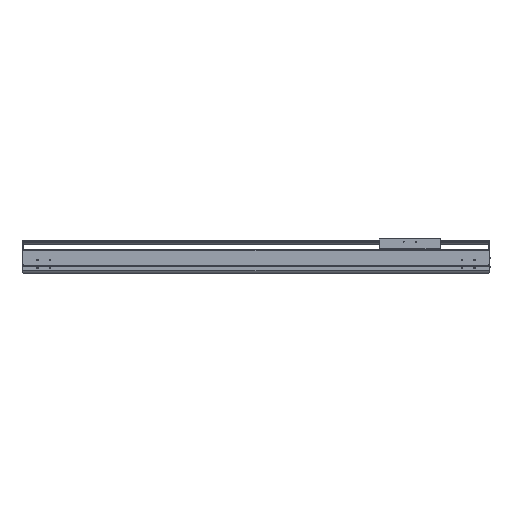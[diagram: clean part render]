
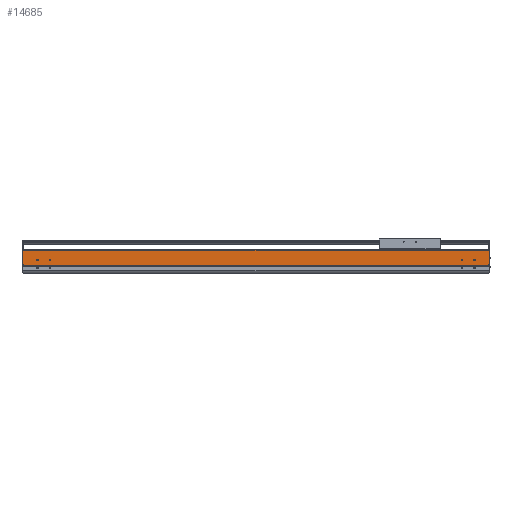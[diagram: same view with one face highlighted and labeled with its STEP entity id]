
A CAD part, top view. The second image highlights one B-rep face of the part: STEP entity #14685.
In plain terms, the highlighted planar face has unit normal (0, 0, 1).
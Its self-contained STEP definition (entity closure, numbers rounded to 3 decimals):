
#538=DIRECTION('',(0.,-1.,0.));
#539=VECTOR('',#538,2.55);
#540=CARTESIAN_POINT('',(0.,34.65,107.));
#541=LINE('',#540,#539);
#2187=DIRECTION('',(1.,0.,0.));
#2188=VECTOR('',#2187,2.);
#2189=CARTESIAN_POINT('',(0.,34.65,107.));
#2190=LINE('',#2189,#2188);
#2195=CARTESIAN_POINT('',(-59.5,54.,107.));
#2196=DIRECTION('',(0.,0.,-1.));
#2197=DIRECTION('',(1.,0.,0.));
#2198=AXIS2_PLACEMENT_3D('',#2195,#2196,#2197);
#2200=CARTESIAN_POINT('',(-59.5,54.,107.));
#2201=DIRECTION('',(0.,0.,-1.));
#2202=DIRECTION('',(-1.,0.,0.));
#2203=AXIS2_PLACEMENT_3D('',#2200,#2201,#2202);
#2205=CARTESIAN_POINT('',(-109.5,54.,107.));
#2206=DIRECTION('',(0.,0.,-1.));
#2207=DIRECTION('',(1.,0.,0.));
#2208=AXIS2_PLACEMENT_3D('',#2205,#2206,#2207);
#2210=CARTESIAN_POINT('',(-109.5,54.,107.));
#2211=DIRECTION('',(0.,0.,-1.));
#2212=DIRECTION('',(-1.,0.,0.));
#2213=AXIS2_PLACEMENT_3D('',#2210,#2211,#2212);
#2215=CARTESIAN_POINT('',(-1859.5,54.,107.));
#2216=DIRECTION('',(0.,0.,-1.));
#2217=DIRECTION('',(1.,0.,0.));
#2218=AXIS2_PLACEMENT_3D('',#2215,#2216,#2217);
#2220=CARTESIAN_POINT('',(-1859.5,54.,107.));
#2221=DIRECTION('',(0.,0.,-1.));
#2222=DIRECTION('',(-1.,0.,0.));
#2223=AXIS2_PLACEMENT_3D('',#2220,#2221,#2222);
#2225=CARTESIAN_POINT('',(-1809.5,54.,107.));
#2226=DIRECTION('',(0.,0.,-1.));
#2227=DIRECTION('',(1.,0.,0.));
#2228=AXIS2_PLACEMENT_3D('',#2225,#2226,#2227);
#2230=CARTESIAN_POINT('',(-1809.5,54.,107.));
#2231=DIRECTION('',(0.,0.,-1.));
#2232=DIRECTION('',(-1.,0.,0.));
#2233=AXIS2_PLACEMENT_3D('',#2230,#2231,#2232);
#2235=DIRECTION('',(0.,-1.,0.));
#2236=VECTOR('',#2235,2.55);
#2237=CARTESIAN_POINT('',(-1919.,34.65,107.));
#2238=LINE('',#2237,#2236);
#2239=DIRECTION('',(0.,-1.,0.));
#2240=VECTOR('',#2239,58.85);
#2241=CARTESIAN_POINT('',(-1921.,93.5,107.));
#2242=LINE('',#2241,#2240);
#2243=DIRECTION('',(0.,1.,0.));
#2244=VECTOR('',#2243,58.85);
#2245=CARTESIAN_POINT('',(2.,34.65,107.));
#2246=LINE('',#2245,#2244);
#2247=DIRECTION('',(1.,0.,0.));
#2248=VECTOR('',#2247,1919.);
#2249=CARTESIAN_POINT('',(-1919.,32.1,107.));
#2250=LINE('',#2249,#2248);
#2359=DIRECTION('',(1.,0.,0.));
#2360=VECTOR('',#2359,2.);
#2361=CARTESIAN_POINT('',(-1921.,34.65,107.));
#2362=LINE('',#2361,#2360);
#2371=DIRECTION('',(-1.,0.,0.));
#2372=VECTOR('',#2371,1923.);
#2373=CARTESIAN_POINT('',(2.,93.5,107.));
#2374=LINE('',#2373,#2372);
#9521=CARTESIAN_POINT('',(-1921.,34.65,107.));
#9522=VERTEX_POINT('',#9521);
#9523=CARTESIAN_POINT('',(-1921.,93.5,107.));
#9524=VERTEX_POINT('',#9523);
#9753=CARTESIAN_POINT('',(-1919.,32.1,107.));
#9754=VERTEX_POINT('',#9753);
#10093=CARTESIAN_POINT('',(0.,32.1,107.));
#10094=VERTEX_POINT('',#10093);
#10095=CARTESIAN_POINT('',(-57.,54.,107.));
#10096=CARTESIAN_POINT('',(-62.,54.,107.));
#10097=VERTEX_POINT('',#10095);
#10098=VERTEX_POINT('',#10096);
#10099=CARTESIAN_POINT('',(-107.,54.,107.));
#10100=CARTESIAN_POINT('',(-112.,54.,107.));
#10101=VERTEX_POINT('',#10099);
#10102=VERTEX_POINT('',#10100);
#10103=CARTESIAN_POINT('',(-1857.,54.,107.));
#10104=CARTESIAN_POINT('',(-1862.,54.,107.));
#10105=VERTEX_POINT('',#10103);
#10106=VERTEX_POINT('',#10104);
#10107=CARTESIAN_POINT('',(-1807.,54.,107.));
#10108=CARTESIAN_POINT('',(-1812.,54.,107.));
#10109=VERTEX_POINT('',#10107);
#10110=VERTEX_POINT('',#10108);
#10810=CARTESIAN_POINT('',(2.,34.65,107.));
#10811=VERTEX_POINT('',#10810);
#10812=CARTESIAN_POINT('',(2.,93.5,107.));
#10813=VERTEX_POINT('',#10812);
#11264=CARTESIAN_POINT('',(0.,34.65,107.));
#11265=VERTEX_POINT('',#11264);
#11344=CARTESIAN_POINT('',(-1919.,34.65,107.));
#11345=VERTEX_POINT('',#11344);
#14643=CARTESIAN_POINT('',(-959.5,62.8,107.));
#14644=DIRECTION('',(0.,0.,1.));
#14645=DIRECTION('',(0.,-1.,0.));
#14646=AXIS2_PLACEMENT_3D('',#14643,#14644,#14645);
#14647=PLANE('',#14646);
#14648=ORIENTED_EDGE('',*,*,#12144,.F.);
#14650=ORIENTED_EDGE('',*,*,#14649,.F.);
#14651=ORIENTED_EDGE('',*,*,#13241,.F.);
#14653=ORIENTED_EDGE('',*,*,#14652,.F.);
#14654=ORIENTED_EDGE('',*,*,#14441,.F.);
#14655=ORIENTED_EDGE('',*,*,#14636,.F.);
#14656=ORIENTED_EDGE('',*,*,#12759,.T.);
#14658=ORIENTED_EDGE('',*,*,#14657,.F.);
#14659=EDGE_LOOP('',(#14648,#14650,#14651,#14653,#14654,#14655,#14656,#14658));
#14660=FACE_OUTER_BOUND('',#14659,.F.);
#14662=ORIENTED_EDGE('',*,*,#14661,.F.);
#14664=ORIENTED_EDGE('',*,*,#14663,.F.);
#14665=EDGE_LOOP('',(#14662,#14664));
#14666=FACE_BOUND('',#14665,.F.);
#14668=ORIENTED_EDGE('',*,*,#14667,.F.);
#14670=ORIENTED_EDGE('',*,*,#14669,.F.);
#14671=EDGE_LOOP('',(#14668,#14670));
#14672=FACE_BOUND('',#14671,.F.);
#14674=ORIENTED_EDGE('',*,*,#14673,.F.);
#14676=ORIENTED_EDGE('',*,*,#14675,.F.);
#14677=EDGE_LOOP('',(#14674,#14676));
#14678=FACE_BOUND('',#14677,.F.);
#14680=ORIENTED_EDGE('',*,*,#14679,.F.);
#14682=ORIENTED_EDGE('',*,*,#14681,.F.);
#14683=EDGE_LOOP('',(#14680,#14682));
#14684=FACE_BOUND('',#14683,.F.);
#14685=ADVANCED_FACE('',(#14660,#14666,#14672,#14678,#14684),#14647,.T.);
#2199=CIRCLE('',#2198,2.5);
#2204=CIRCLE('',#2203,2.5);
#2209=CIRCLE('',#2208,2.5);
#2214=CIRCLE('',#2213,2.5);
#2219=CIRCLE('',#2218,2.5);
#2224=CIRCLE('',#2223,2.5);
#2229=CIRCLE('',#2228,2.5);
#2234=CIRCLE('',#2233,2.5);
#12144=EDGE_CURVE('',#11345,#9754,#2238,.T.);
#12759=EDGE_CURVE('',#11265,#10094,#541,.T.);
#13241=EDGE_CURVE('',#9524,#9522,#2242,.T.);
#14441=EDGE_CURVE('',#10811,#10813,#2246,.T.);
#14636=EDGE_CURVE('',#11265,#10811,#2190,.T.);
#14649=EDGE_CURVE('',#9522,#11345,#2362,.T.);
#14652=EDGE_CURVE('',#10813,#9524,#2374,.T.);
#14657=EDGE_CURVE('',#9754,#10094,#2250,.T.);
#14661=EDGE_CURVE('',#10101,#10102,#2209,.T.);
#14663=EDGE_CURVE('',#10102,#10101,#2214,.T.);
#14667=EDGE_CURVE('',#10105,#10106,#2219,.T.);
#14669=EDGE_CURVE('',#10106,#10105,#2224,.T.);
#14673=EDGE_CURVE('',#10109,#10110,#2229,.T.);
#14675=EDGE_CURVE('',#10110,#10109,#2234,.T.);
#14679=EDGE_CURVE('',#10097,#10098,#2199,.T.);
#14681=EDGE_CURVE('',#10098,#10097,#2204,.T.);
